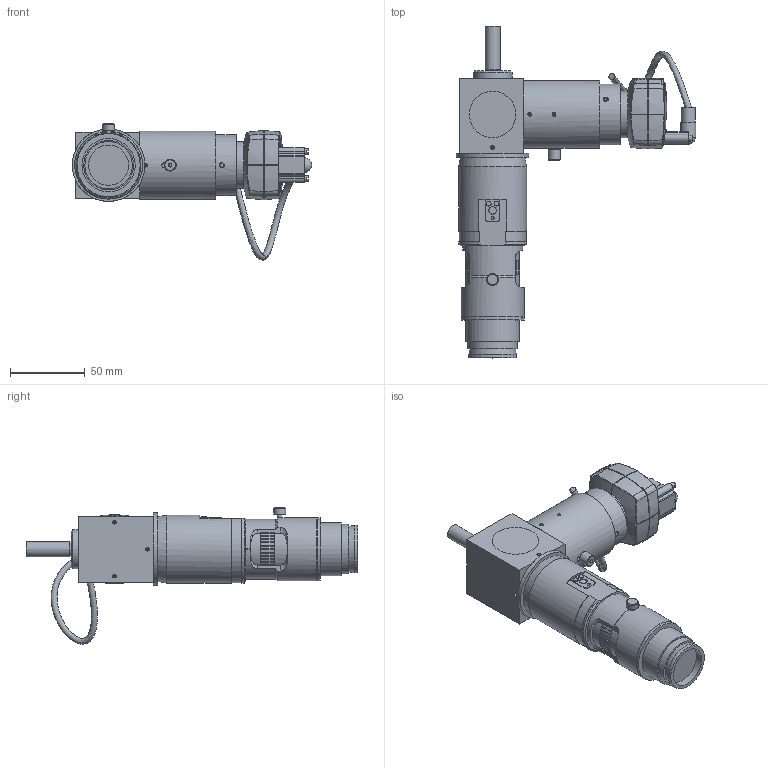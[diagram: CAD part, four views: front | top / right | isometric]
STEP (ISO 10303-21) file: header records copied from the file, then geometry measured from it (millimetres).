
FILE_DESCRIPTION(/* description */ (''),/* implementation_level */ '2;1');
FILE_NAME(/* name */ '\\SERVEUR-09\Entreprise\Bureau-Technique\Produits Web\videos\optiques\MA730-Z2-C-054.stp',/* time_stamp */ '2018-09-28T10:23:19+02:00',/* author */ ('ms'),/* organization */ ('Marcel Aubert'),/* preprocessor_version */ 'ST-DEVELOPER v17',/* originating_system */ 'Autodesk Inventor 2019',/* authorisation */ '');
FILE_SCHEMA (('AUTOMOTIVE_DESIGN { 1 0 10303 214 3 1 1 }'));
Length unit declared in the file: millimetre
Products named in the file (1): Pièce1
Bounding box: 159.66 x 221.4 x 90.9 mm (x, y, z)
Volume: 358298.9 mm3; surface area: 82517.8 mm2
Topology: 2 solids, 12 shells, 1167 faces, 3167 edges, 2096 vertices
Faces by surface type: plane 566, cylinder 327, bspline 125, cone 88, torus 41, sphere 20
Full cylindrical faces by diameter (mm): 1.6 x2, 1.88 x4, 2 x3, 2.3 x2, 2.459 x22, 2.5 x2, 3 x3, 3.2 x3, 3.242 x3, 3.5 x5, 3.9 x2, 4 x3, 5 x1, 6.7 x1, 7.1 x2, 7.4 x2, 7.9 x1, 8 x1, 9.5 x1, 9.7 x1, 10 x2, 18.5 x1, 19 x1, 19.188 x2, 20 x1, 22 x4, 22.5 x1, 24.4 x1, 24.605 x2, 26 x1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
Entity records: 52554 total; most frequent: CARTESIAN_POINT 22552, ORIENTED_EDGE 6294, DIRECTION 5663, EDGE_CURVE 3147, AXIS2_PLACEMENT_3D 2156, VERTEX_POINT 2098, LINE 1351, VECTOR 1351
